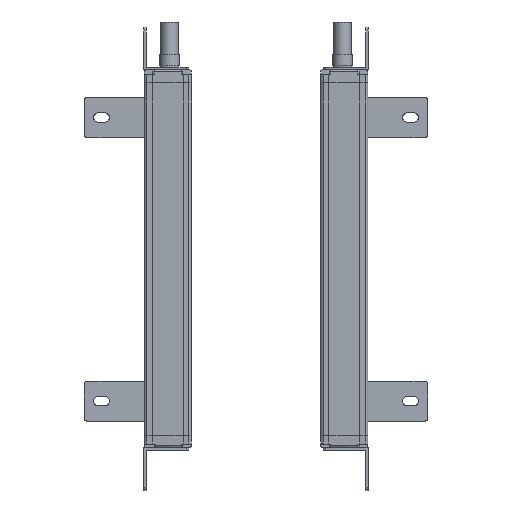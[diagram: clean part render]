
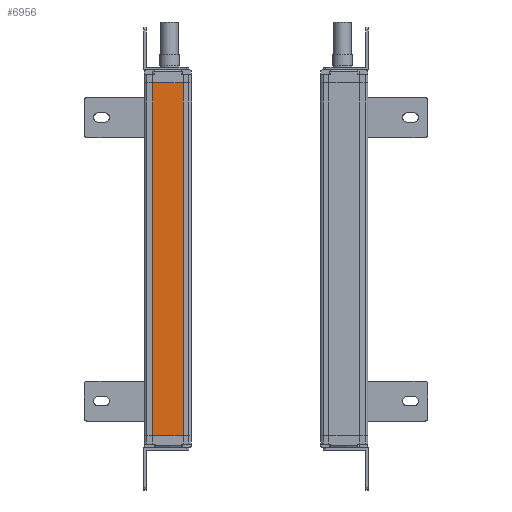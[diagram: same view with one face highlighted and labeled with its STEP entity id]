
A CAD part, left-side view. The second image highlights one B-rep face of the part: STEP entity #6956.
In plain terms, the highlighted planar face has unit normal (-1, 0, 0).
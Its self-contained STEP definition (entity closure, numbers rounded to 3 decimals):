
#953=FACE_OUTER_BOUND('',#9034,.T.);
#2188=LINE('',#33710,#4326);
#2290=LINE('',#34050,#4428);
#2291=LINE('',#34052,#4429);
#2292=LINE('',#34054,#4430);
#4326=VECTOR('',#26897,1.);
#4428=VECTOR('',#27185,1.);
#4429=VECTOR('',#27188,1.);
#4430=VECTOR('',#27189,1.);
#6178=PLANE('',#23723);
#6956=ADVANCED_FACE('',(#953),#6178,.T.);
#9034=EDGE_LOOP('',(#11681,#11682,#11683,#11684));
#11681=ORIENTED_EDGE('',*,*,#19828,.F.);
#11682=ORIENTED_EDGE('',*,*,#19829,.T.);
#11683=ORIENTED_EDGE('',*,*,#19830,.T.);
#11684=ORIENTED_EDGE('',*,*,#19658,.F.);
#17203=VERTEX_POINT('',#33709);
#17204=VERTEX_POINT('',#33711);
#17348=VERTEX_POINT('',#34049);
#17349=VERTEX_POINT('',#34053);
#19658=EDGE_CURVE('',#17203,#17204,#2188,.T.);
#19828=EDGE_CURVE('',#17348,#17203,#2290,.T.);
#19829=EDGE_CURVE('',#17348,#17349,#2291,.T.);
#19830=EDGE_CURVE('',#17349,#17204,#2292,.T.);
#23723=AXIS2_PLACEMENT_3D('',#34055,#27190,#27191);
#26897=DIRECTION('',(0.,-1.,0.));
#27185=DIRECTION('',(0.,0.,1.));
#27188=DIRECTION('',(0.,-1.,0.));
#27189=DIRECTION('',(0.,0.,1.));
#27190=DIRECTION('',(-1.,0.,0.));
#27191=DIRECTION('',(0.,-1.,0.));
#33709=CARTESIAN_POINT('',(233.846,104.141,31.645));
#33710=CARTESIAN_POINT('',(233.846,81.141,31.645));
#33711=CARTESIAN_POINT('',(233.846,81.141,31.645));
#34049=CARTESIAN_POINT('',(233.846,104.141,-233.355));
#34050=CARTESIAN_POINT('',(233.846,104.141,-155.355));
#34052=CARTESIAN_POINT('',(233.846,81.141,-233.355));
#34053=CARTESIAN_POINT('',(233.846,81.141,-233.355));
#34054=CARTESIAN_POINT('',(233.846,81.141,-155.355));
#34055=CARTESIAN_POINT('',(233.846,81.141,-50.355));
